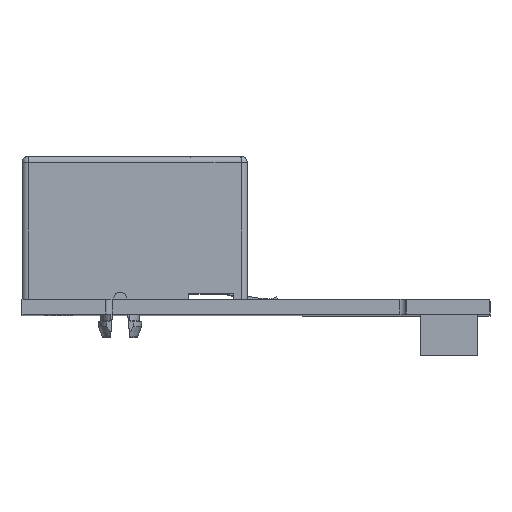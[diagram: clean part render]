
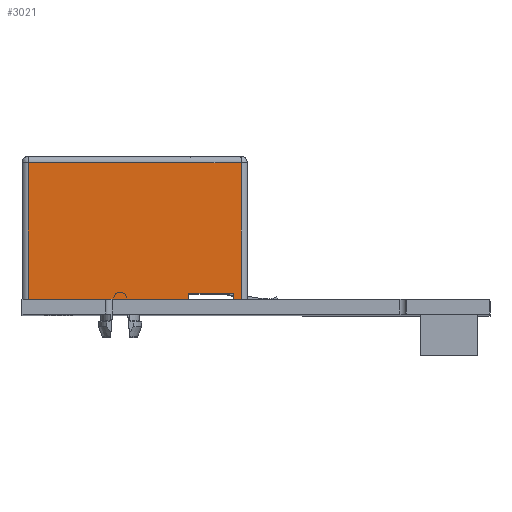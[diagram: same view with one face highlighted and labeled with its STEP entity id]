
A CAD part, top view. The second image highlights one B-rep face of the part: STEP entity #3021.
In plain terms, the highlighted planar face has unit normal (0, 0, 1).
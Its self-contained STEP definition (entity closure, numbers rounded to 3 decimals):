
#3021=ADVANCED_FACE('',(#4465),#15647,.T.);
#4465=FACE_OUTER_BOUND('',#6084,.F.);
#6084=EDGE_LOOP('',(#12709,#12710,#12711,#12712,#12713,#12714,#12715,#12716));
#12709=ORIENTED_EDGE('',*,*,#25637,.F.);
#12710=ORIENTED_EDGE('',*,*,#29338,.T.);
#12711=ORIENTED_EDGE('',*,*,#29339,.T.);
#12712=ORIENTED_EDGE('',*,*,#29340,.T.);
#12713=ORIENTED_EDGE('',*,*,#25636,.F.);
#12714=ORIENTED_EDGE('',*,*,#29337,.T.);
#12715=ORIENTED_EDGE('',*,*,#28443,.T.);
#12716=ORIENTED_EDGE('',*,*,#28441,.F.);
#15647=PLANE('',#41045);
#25636=EDGE_CURVE('',#39087,#39086,#29843,.T.);
#25637=EDGE_CURVE('',#39085,#39094,#29844,.T.);
#28441=EDGE_CURVE('',#39094,#37255,#32074,.T.);
#28443=EDGE_CURVE('',#37245,#37255,#32076,.T.);
#29337=EDGE_CURVE('',#39087,#37245,#32821,.T.);
#29338=EDGE_CURVE('',#39085,#36650,#32822,.T.);
#29339=EDGE_CURVE('',#36650,#36649,#32823,.T.);
#29340=EDGE_CURVE('',#36649,#39086,#32824,.T.);
#29843=LINE('',#52006,#33205);
#29844=LINE('',#52007,#33206);
#32074=LINE('',#55247,#35436);
#32076=LINE('',#55249,#35438);
#32821=LINE('',#56143,#36183);
#32822=LINE('',#56144,#36184);
#32823=LINE('',#56145,#36185);
#32824=LINE('',#56146,#36186);
#33205=VECTOR('',#41572,0.605);
#33206=VECTOR('',#41573,12.9);
#35436=VECTOR('',#44797,0.5);
#35438=VECTOR('',#44799,3.595);
#36183=VECTOR('',#45842,0.5);
#36184=VECTOR('',#45843,11.);
#36185=VECTOR('',#45844,17.1);
#36186=VECTOR('',#45845,11.);
#36649=VERTEX_POINT('',#49465);
#36650=VERTEX_POINT('',#49466);
#37245=VERTEX_POINT('',#50061);
#37255=VERTEX_POINT('',#50071);
#39085=VERTEX_POINT('',#51901);
#39086=VERTEX_POINT('',#51902);
#39087=VERTEX_POINT('',#51903);
#39094=VERTEX_POINT('',#51910);
#41045=AXIS2_PLACEMENT_3D('',#57497,#48241,#48242);
#41572=DIRECTION('',(1.,0.,0.));
#41573=DIRECTION('',(1.,0.,0.));
#44797=DIRECTION('',(0.,1.,0.));
#44799=DIRECTION('',(-1.,0.,0.));
#45842=DIRECTION('',(0.,1.,0.));
#45843=DIRECTION('',(0.,1.,0.));
#45844=DIRECTION('',(1.,0.,0.));
#45845=DIRECTION('',(0.,-1.,0.));
#48241=DIRECTION('',(0.,0.,1.));
#48242=DIRECTION('',(0.,1.,0.));
#49465=CARTESIAN_POINT('',(3.554,13.704,9.828));
#49466=CARTESIAN_POINT('',(-13.546,13.704,9.828));
#50061=CARTESIAN_POINT('',(2.949,3.204,9.828));
#50071=CARTESIAN_POINT('',(-0.646,3.204,9.828));
#51901=CARTESIAN_POINT('',(-13.546,2.704,9.828));
#51902=CARTESIAN_POINT('',(3.554,2.704,9.828));
#51903=CARTESIAN_POINT('',(2.949,2.704,9.828));
#51910=CARTESIAN_POINT('',(-0.646,2.704,9.828));
#52006=CARTESIAN_POINT('',(2.949,2.704,9.828));
#52007=CARTESIAN_POINT('',(-13.546,2.704,9.828));
#55247=CARTESIAN_POINT('',(-0.646,2.704,9.828));
#55249=CARTESIAN_POINT('',(2.949,3.204,9.828));
#56143=CARTESIAN_POINT('',(2.949,2.704,9.828));
#56144=CARTESIAN_POINT('',(-13.546,2.704,9.828));
#56145=CARTESIAN_POINT('',(-13.546,13.704,9.828));
#56146=CARTESIAN_POINT('',(3.554,13.704,9.828));
#57497=CARTESIAN_POINT('',(4.409,1.849,9.828));
